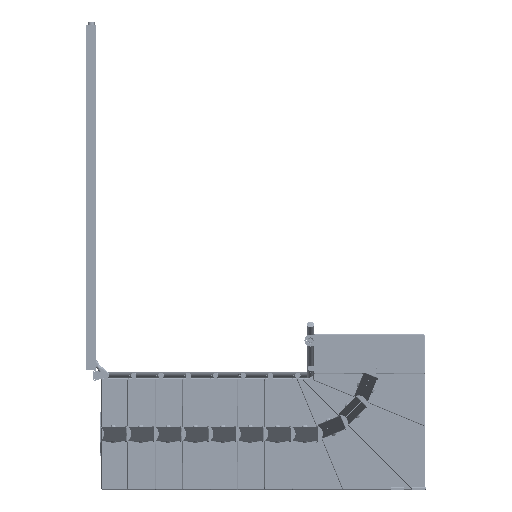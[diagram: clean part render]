
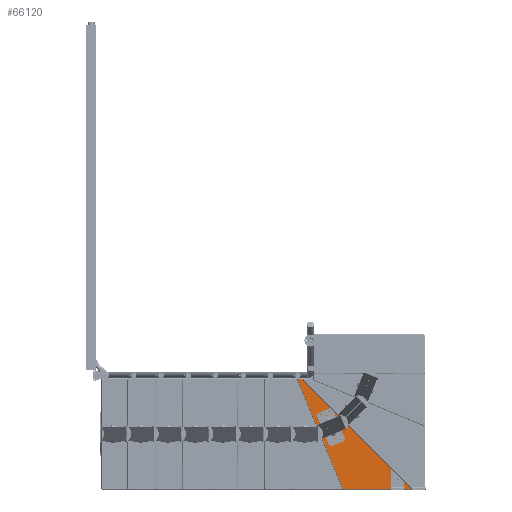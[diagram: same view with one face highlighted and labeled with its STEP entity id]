
A CAD part, front view. The second image highlights one B-rep face of the part: STEP entity #66120.
In plain terms, the highlighted planar face has unit normal (0, -1, 0) as drawn and (0, 1, 0) by its records, which use the part's own axes.
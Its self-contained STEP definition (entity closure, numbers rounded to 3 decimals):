
#333 = CARTESIAN_POINT ( 'NONE',  ( -440.087, 19., -539.756 ) ) ;
#1708 = EDGE_CURVE ( 'NONE', #38839, #4127, #53245, .T. ) ;
#1782 = CARTESIAN_POINT ( 'NONE',  ( -10., 19., 330.71 ) ) ;
#3327 = EDGE_CURVE ( 'NONE', #36420, #12787, #65550, .T. ) ;
#3650 = CARTESIAN_POINT ( 'NONE',  ( -446.619, 19., -533.223 ) ) ;
#4127 = VERTEX_POINT ( 'NONE', #48399 ) ;
#4201 = DIRECTION ( 'NONE',  ( 0., 1., 0. ) ) ;
#5653 = DIRECTION ( 'NONE',  ( 0., 1., 0. ) ) ;
#7684 = CARTESIAN_POINT ( 'NONE',  ( -10., 19., 325.71 ) ) ;
#7719 = DIRECTION ( 'NONE',  ( 0., 1., 0. ) ) ;
#8200 = EDGE_CURVE ( 'NONE', #40779, #55037, #63557, .T. ) ;
#8500 = CIRCLE ( 'NONE', #16928, 50. ) ;
#9452 = DIRECTION ( 'NONE',  ( 0.924, 0., 0.383 ) ) ;
#9911 = VERTEX_POINT ( 'NONE', #45003 ) ;
#10279 = DIRECTION ( 'NONE',  ( 0., 1., 0. ) ) ;
#10326 = CARTESIAN_POINT ( 'NONE',  ( -8.087, 19., -360.816 ) ) ;
#10429 = CIRCLE ( 'NONE', #22463, 5. ) ;
#10598 = ORIENTED_EDGE ( 'NONE', *, *, #56549, .T. ) ;
#10654 = CIRCLE ( 'NONE', #58809, 5. ) ;
#11277 = CIRCLE ( 'NONE', #55867, 5. ) ;
#11716 = ORIENTED_EDGE ( 'NONE', *, *, #46540, .T. ) ;
#12787 = VERTEX_POINT ( 'NONE', #14797 ) ;
#13314 = ORIENTED_EDGE ( 'NONE', *, *, #55175, .T. ) ;
#13891 = CARTESIAN_POINT ( 'NONE',  ( -5., 19., -356.197 ) ) ;
#14375 = ORIENTED_EDGE ( 'NONE', *, *, #37936, .T. ) ;
#14545 = LINE ( 'NONE', #44015, #31452 ) ;
#14797 = CARTESIAN_POINT ( 'NONE',  ( -5., 19., -356.197 ) ) ;
#15576 = ORIENTED_EDGE ( 'NONE', *, *, #8200, .T. ) ;
#16314 = DIRECTION ( 'NONE',  ( 0., -1., 0. ) ) ;
#16928 = AXIS2_PLACEMENT_3D ( 'NONE', #38643, #16314, #62708 ) ;
#18427 = DIRECTION ( 'NONE',  ( 0., 0., -1. ) ) ;
#18495 = CARTESIAN_POINT ( 'NONE',  ( -5., 19., -356.197 ) ) ;
#19197 = ORIENTED_EDGE ( 'NONE', *, *, #1708, .T. ) ;
#19678 = CARTESIAN_POINT ( 'NONE',  ( -442., 19., -535.137 ) ) ;
#19994 = DIRECTION ( 'NONE',  ( 0., 0., -1. ) ) ;
#22463 = AXIS2_PLACEMENT_3D ( 'NONE', #64701, #36445, #53417 ) ;
#22826 = VECTOR ( 'NONE', #18427, 1000. ) ;
#23204 = CARTESIAN_POINT ( 'NONE',  ( -440.087, 19., -539.756 ) ) ;
#25082 = VECTOR ( 'NONE', #9452, 1000. ) ;
#26173 = PLANE ( 'NONE',  #65065 ) ;
#29181 = EDGE_LOOP ( 'NONE', ( #61630, #35694, #53073, #15576, #69861, #11716, #14375, #41990, #10598, #71542, #13314, #19197 ) ) ;
#29399 = CARTESIAN_POINT ( 'NONE',  ( -10., 19., 325.71 ) ) ;
#29714 = EDGE_CURVE ( 'NONE', #55037, #9911, #11277, .T. ) ;
#30369 = AXIS2_PLACEMENT_3D ( 'NONE', #29399, #5653, #39640 ) ;
#31099 = CARTESIAN_POINT ( 'NONE',  ( -102.96, 19., 292.617 ) ) ;
#31451 = DIRECTION ( 'NONE',  ( 0., 0., 1. ) ) ;
#31452 = VECTOR ( 'NONE', #61649, 1000. ) ;
#32978 = DIRECTION ( 'NONE',  ( 0., 1., 0. ) ) ;
#33294 = DIRECTION ( 'NONE',  ( 0., 0., 1. ) ) ;
#33872 = AXIS2_PLACEMENT_3D ( 'NONE', #7684, #55189, #31451 ) ;
#35694 = ORIENTED_EDGE ( 'NONE', *, *, #3327, .T. ) ;
#36410 = DIRECTION ( 'NONE',  ( 0., 0., 1. ) ) ;
#36420 = VERTEX_POINT ( 'NONE', #73401 ) ;
#36445 = DIRECTION ( 'NONE',  ( 0., 1., 0. ) ) ;
#37936 = EDGE_CURVE ( 'NONE', #70814, #68710, #14545, .T. ) ;
#38184 = DIRECTION ( 'NONE',  ( 0., 0., 1. ) ) ;
#38643 = CARTESIAN_POINT ( 'NONE',  ( 26.8, 19., 0. ) ) ;
#38839 = VERTEX_POINT ( 'NONE', #62955 ) ;
#39640 = DIRECTION ( 'NONE',  ( 0., 0., 1. ) ) ;
#40621 = DIRECTION ( 'NONE',  ( -0.924, 0., -0.383 ) ) ;
#40779 = VERTEX_POINT ( 'NONE', #10326 ) ;
#41343 = VERTEX_POINT ( 'NONE', #1782 ) ;
#41860 = EDGE_CURVE ( 'NONE', #12787, #40779, #43346, .T. ) ;
#41990 = ORIENTED_EDGE ( 'NONE', *, *, #67502, .T. ) ;
#42161 = AXIS2_PLACEMENT_3D ( 'NONE', #55979, #32978, #60842 ) ;
#42715 = LINE ( 'NONE', #72029, #25082 ) ;
#43148 = VERTEX_POINT ( 'NONE', #70340 ) ;
#43346 = CIRCLE ( 'NONE', #42161, 5. ) ;
#44015 = CARTESIAN_POINT ( 'NONE',  ( -105.666, 19., 289.911 ) ) ;
#45003 = CARTESIAN_POINT ( 'NONE',  ( -442., 19., -540.137 ) ) ;
#46540 = EDGE_CURVE ( 'NONE', #9911, #70814, #10654, .T. ) ;
#47735 = FACE_OUTER_BOUND ( 'NONE', #29181, .T. ) ;
#48399 = CARTESIAN_POINT ( 'NONE',  ( -5., 19., 38.584 ) ) ;
#51727 = VECTOR ( 'NONE', #40621, 1000. ) ;
#53073 = ORIENTED_EDGE ( 'NONE', *, *, #41860, .T. ) ;
#53245 = LINE ( 'NONE', #18495, #57148 ) ;
#53417 = DIRECTION ( 'NONE',  ( 0., 0., 1. ) ) ;
#53739 = CARTESIAN_POINT ( 'NONE',  ( -442., 19., -535.137 ) ) ;
#54537 = EDGE_CURVE ( 'NONE', #43148, #41343, #73607, .T. ) ;
#55037 = VERTEX_POINT ( 'NONE', #333 ) ;
#55175 = EDGE_CURVE ( 'NONE', #41343, #38839, #68872, .T. ) ;
#55189 = DIRECTION ( 'NONE',  ( 0., 1., 0. ) ) ;
#55867 = AXIS2_PLACEMENT_3D ( 'NONE', #19678, #4201, #38184 ) ;
#55979 = CARTESIAN_POINT ( 'NONE',  ( -10., 19., -356.197 ) ) ;
#56549 = EDGE_CURVE ( 'NONE', #64620, #43148, #42715, .T. ) ;
#57148 = VECTOR ( 'NONE', #19994, 1000. ) ;
#58809 = AXIS2_PLACEMENT_3D ( 'NONE', #63034, #10279, #33294 ) ;
#60842 = DIRECTION ( 'NONE',  ( 0., 0., 1. ) ) ;
#61630 = ORIENTED_EDGE ( 'NONE', *, *, #66140, .T. ) ;
#61649 = DIRECTION ( 'NONE',  ( 0.383, 0., 0.924 ) ) ;
#62708 = DIRECTION ( 'NONE',  ( 0., 0., -1. ) ) ;
#62955 = CARTESIAN_POINT ( 'NONE',  ( -5., 19., 325.71 ) ) ;
#63034 = CARTESIAN_POINT ( 'NONE',  ( -442., 19., -535.137 ) ) ;
#63557 = LINE ( 'NONE', #23204, #51727 ) ;
#64620 = VERTEX_POINT ( 'NONE', #31099 ) ;
#64701 = CARTESIAN_POINT ( 'NONE',  ( -101.046, 19., 287.998 ) ) ;
#65065 = AXIS2_PLACEMENT_3D ( 'NONE', #53739, #7719, #36410 ) ;
#65550 = LINE ( 'NONE', #13891, #22826 ) ;
#66103 = CARTESIAN_POINT ( 'NONE',  ( -105.666, 19., 289.911 ) ) ;
#66120 = ADVANCED_FACE ( 'NONE', ( #47735 ), #26173, .T. ) ;
#66140 = EDGE_CURVE ( 'NONE', #4127, #36420, #8500, .T. ) ;
#67502 = EDGE_CURVE ( 'NONE', #68710, #64620, #10429, .T. ) ;
#68710 = VERTEX_POINT ( 'NONE', #66103 ) ;
#68872 = CIRCLE ( 'NONE', #30369, 5. ) ;
#69861 = ORIENTED_EDGE ( 'NONE', *, *, #29714, .T. ) ;
#70340 = CARTESIAN_POINT ( 'NONE',  ( -11.913, 19., 330.33 ) ) ;
#70814 = VERTEX_POINT ( 'NONE', #3650 ) ;
#71542 = ORIENTED_EDGE ( 'NONE', *, *, #54537, .T. ) ;
#72029 = CARTESIAN_POINT ( 'NONE',  ( -11.913, 19., 330.33 ) ) ;
#73401 = CARTESIAN_POINT ( 'NONE',  ( -5., 19., -38.584 ) ) ;
#73607 = CIRCLE ( 'NONE', #33872, 5. ) ;
